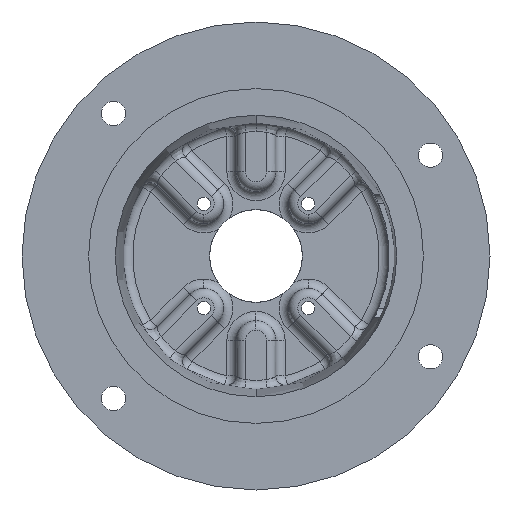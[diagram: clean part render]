
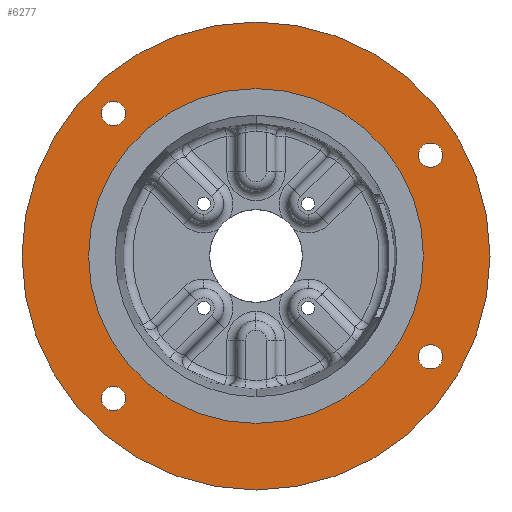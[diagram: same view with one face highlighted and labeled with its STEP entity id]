
A CAD part, front view. The second image highlights one B-rep face of the part: STEP entity #6277.
In plain terms, the highlighted planar face has unit normal (0, -1, 0).
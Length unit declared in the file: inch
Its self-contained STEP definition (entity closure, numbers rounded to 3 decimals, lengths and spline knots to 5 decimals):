
#77 = CIRCLE ( 'NONE', #4605, 4.5 ) ;
#103 = CARTESIAN_POINT ( 'NONE',  ( 3.35585, 0., -1.9375 ) ) ;
#230 = FACE_BOUND ( 'NONE', #4727, .T. ) ;
#273 = VERTEX_POINT ( 'NONE', #1847 ) ;
#408 = DIRECTION ( 'NONE',  ( 0., 0., -1. ) ) ;
#413 = DIRECTION ( 'NONE',  ( 0., -1., 0. ) ) ;
#441 = CARTESIAN_POINT ( 'NONE',  ( -2.74004, 0., 2.74004 ) ) ;
#488 = CARTESIAN_POINT ( 'NONE',  ( -2.74004, 0., 2.97441 ) ) ;
#516 = ORIENTED_EDGE ( 'NONE', *, *, #4369, .F. ) ;
#527 = CARTESIAN_POINT ( 'NONE',  ( 3.35585, 0., -2.17187 ) ) ;
#542 = CIRCLE ( 'NONE', #6297, 0.23437 ) ;
#728 = EDGE_CURVE ( 'NONE', #4819, #273, #77, .T. ) ;
#779 = ORIENTED_EDGE ( 'NONE', *, *, #1703, .F. ) ;
#861 = CARTESIAN_POINT ( 'NONE',  ( 0., 0., 0. ) ) ;
#879 = DIRECTION ( 'NONE',  ( 0., -1., 0. ) ) ;
#1015 = CIRCLE ( 'NONE', #5855, 0.23438 ) ;
#1125 = ORIENTED_EDGE ( 'NONE', *, *, #6270, .F. ) ;
#1303 = DIRECTION ( 'NONE',  ( 0., 0., -1. ) ) ;
#1311 = DIRECTION ( 'NONE',  ( 0., -1., 0. ) ) ;
#1313 = EDGE_LOOP ( 'NONE', ( #5554, #779 ) ) ;
#1322 = CARTESIAN_POINT ( 'NONE',  ( 0., 0., 0. ) ) ;
#1437 = ORIENTED_EDGE ( 'NONE', *, *, #4783, .F. ) ;
#1528 = CARTESIAN_POINT ( 'NONE',  ( -2.74004, 0., 2.50566 ) ) ;
#1612 = FACE_BOUND ( 'NONE', #1313, .T. ) ;
#1703 = EDGE_CURVE ( 'NONE', #5228, #5819, #542, .T. ) ;
#1760 = DIRECTION ( 'NONE',  ( 0., 0., -1. ) ) ;
#1791 = DIRECTION ( 'NONE',  ( 0., -1., 0. ) ) ;
#1799 = CARTESIAN_POINT ( 'NONE',  ( 0., 0., 3.2195 ) ) ;
#1835 = CARTESIAN_POINT ( 'NONE',  ( -2.74004, 0., 2.74004 ) ) ;
#1847 = CARTESIAN_POINT ( 'NONE',  ( 0., 0., -4.5 ) ) ;
#2000 = CARTESIAN_POINT ( 'NONE',  ( 0., 0., -3.2195 ) ) ;
#2060 = EDGE_CURVE ( 'NONE', #5192, #5173, #3580, .T. ) ;
#2099 = VERTEX_POINT ( 'NONE', #2000 ) ;
#2105 = DIRECTION ( 'NONE',  ( 0., 0., -1. ) ) ;
#2113 = DIRECTION ( 'NONE',  ( 0., -1., 0. ) ) ;
#2121 = CARTESIAN_POINT ( 'NONE',  ( 3.35585, 0., 1.9375 ) ) ;
#2137 = ORIENTED_EDGE ( 'NONE', *, *, #4495, .T. ) ;
#2178 = DIRECTION ( 'NONE',  ( 0., 0., -1. ) ) ;
#2221 = DIRECTION ( 'NONE',  ( 0., -1., 0. ) ) ;
#2226 = CARTESIAN_POINT ( 'NONE',  ( -2.74004, 0., -2.74004 ) ) ;
#2259 = CIRCLE ( 'NONE', #5369, 4.5 ) ;
#2329 = EDGE_LOOP ( 'NONE', ( #2399, #1437 ) ) ;
#2399 = ORIENTED_EDGE ( 'NONE', *, *, #3465, .F. ) ;
#2512 = CIRCLE ( 'NONE', #4157, 0.23438 ) ;
#2668 = AXIS2_PLACEMENT_3D ( 'NONE', #441, #413, #408 ) ;
#2680 = CIRCLE ( 'NONE', #3091, 3.2195 ) ;
#2771 = CIRCLE ( 'NONE', #3753, 0.23438 ) ;
#2796 = DIRECTION ( 'NONE',  ( 0., 0., -1. ) ) ;
#2823 = DIRECTION ( 'NONE',  ( 0., -1., 0. ) ) ;
#2837 = CARTESIAN_POINT ( 'NONE',  ( -2.74004, 0., -2.50566 ) ) ;
#2845 = CARTESIAN_POINT ( 'NONE',  ( 3.35585, 0., 1.9375 ) ) ;
#2971 = DIRECTION ( 'NONE',  ( 0., -1., 0. ) ) ;
#2975 = VERTEX_POINT ( 'NONE', #3026 ) ;
#2982 = DIRECTION ( 'NONE',  ( 0., 0., -1. ) ) ;
#2996 = FACE_BOUND ( 'NONE', #2329, .T. ) ;
#3026 = CARTESIAN_POINT ( 'NONE',  ( 3.35585, 0., -1.70312 ) ) ;
#3091 = AXIS2_PLACEMENT_3D ( 'NONE', #1322, #1311, #1303 ) ;
#3120 = ORIENTED_EDGE ( 'NONE', *, *, #5109, .F. ) ;
#3139 = CARTESIAN_POINT ( 'NONE',  ( 0., 0., 0. ) ) ;
#3180 = EDGE_CURVE ( 'NONE', #5253, #2099, #2680, .T. ) ;
#3320 = VERTEX_POINT ( 'NONE', #527 ) ;
#3394 = DIRECTION ( 'NONE',  ( 0., 0., -1. ) ) ;
#3465 = EDGE_CURVE ( 'NONE', #3320, #2975, #4625, .T. ) ;
#3570 = ORIENTED_EDGE ( 'NONE', *, *, #2060, .F. ) ;
#3580 = CIRCLE ( 'NONE', #5651, 0.23438 ) ;
#3753 = AXIS2_PLACEMENT_3D ( 'NONE', #2845, #2823, #2796 ) ;
#3813 = CARTESIAN_POINT ( 'NONE',  ( 0., 0., 4.5 ) ) ;
#3833 = DIRECTION ( 'NONE',  ( 0., 0., 1. ) ) ;
#3850 = VERTEX_POINT ( 'NONE', #1528 ) ;
#3919 = EDGE_LOOP ( 'NONE', ( #2137, #5475 ) ) ;
#4068 = DIRECTION ( 'NONE',  ( 0., -1., 0. ) ) ;
#4097 = DIRECTION ( 'NONE',  ( 0., 0., -1. ) ) ;
#4157 = AXIS2_PLACEMENT_3D ( 'NONE', #5252, #4068, #3394 ) ;
#4193 = DIRECTION ( 'NONE',  ( 0., 1., 0. ) ) ;
#4221 = FACE_OUTER_BOUND ( 'NONE', #3919, .T. ) ;
#4291 = DIRECTION ( 'NONE',  ( 0., 0., -1. ) ) ;
#4293 = DIRECTION ( 'NONE',  ( 0., -1., 0. ) ) ;
#4298 = CARTESIAN_POINT ( 'NONE',  ( -2.74004, 0., -2.74004 ) ) ;
#4344 = CARTESIAN_POINT ( 'NONE',  ( -2.74004, 0., -2.97441 ) ) ;
#4369 = EDGE_CURVE ( 'NONE', #5173, #5192, #2771, .T. ) ;
#4395 = CIRCLE ( 'NONE', #5061, 3.2195 ) ;
#4412 = EDGE_CURVE ( 'NONE', #5819, #5228, #6361, .T. ) ;
#4421 = AXIS2_PLACEMENT_3D ( 'NONE', #2226, #2221, #2178 ) ;
#4463 = CARTESIAN_POINT ( 'NONE',  ( 0., 0., 0. ) ) ;
#4495 = EDGE_CURVE ( 'NONE', #273, #4819, #2259, .T. ) ;
#4515 = EDGE_LOOP ( 'NONE', ( #1125, #4888 ) ) ;
#4605 = AXIS2_PLACEMENT_3D ( 'NONE', #861, #2971, #2982 ) ;
#4625 = CIRCLE ( 'NONE', #5943, 0.23438 ) ;
#4632 = PLANE ( 'NONE',  #5891 ) ;
#4646 = DIRECTION ( 'NONE',  ( 0., 0., -1. ) ) ;
#4727 = EDGE_LOOP ( 'NONE', ( #5886, #3120 ) ) ;
#4768 = DIRECTION ( 'NONE',  ( 0., -1., 0. ) ) ;
#4783 = EDGE_CURVE ( 'NONE', #2975, #3320, #2512, .T. ) ;
#4819 = VERTEX_POINT ( 'NONE', #3813 ) ;
#4888 = ORIENTED_EDGE ( 'NONE', *, *, #3180, .F. ) ;
#4903 = EDGE_LOOP ( 'NONE', ( #3570, #516 ) ) ;
#5061 = AXIS2_PLACEMENT_3D ( 'NONE', #3139, #4768, #4646 ) ;
#5109 = EDGE_CURVE ( 'NONE', #6225, #3850, #1015, .T. ) ;
#5173 = VERTEX_POINT ( 'NONE', #6056 ) ;
#5192 = VERTEX_POINT ( 'NONE', #5718 ) ;
#5228 = VERTEX_POINT ( 'NONE', #2837 ) ;
#5252 = CARTESIAN_POINT ( 'NONE',  ( 3.35585, 0., -1.9375 ) ) ;
#5253 = VERTEX_POINT ( 'NONE', #1799 ) ;
#5369 = AXIS2_PLACEMENT_3D ( 'NONE', #4463, #5472, #4097 ) ;
#5472 = DIRECTION ( 'NONE',  ( 0., -1., 0. ) ) ;
#5475 = ORIENTED_EDGE ( 'NONE', *, *, #728, .T. ) ;
#5486 = FACE_BOUND ( 'NONE', #4515, .T. ) ;
#5554 = ORIENTED_EDGE ( 'NONE', *, *, #4412, .F. ) ;
#5608 = FACE_BOUND ( 'NONE', #4903, .T. ) ;
#5651 = AXIS2_PLACEMENT_3D ( 'NONE', #2121, #2113, #2105 ) ;
#5718 = CARTESIAN_POINT ( 'NONE',  ( 3.35585, 0., 1.70313 ) ) ;
#5819 = VERTEX_POINT ( 'NONE', #4344 ) ;
#5855 = AXIS2_PLACEMENT_3D ( 'NONE', #1835, #1791, #1760 ) ;
#5886 = ORIENTED_EDGE ( 'NONE', *, *, #6171, .F. ) ;
#5891 = AXIS2_PLACEMENT_3D ( 'NONE', #5989, #4193, #3833 ) ;
#5943 = AXIS2_PLACEMENT_3D ( 'NONE', #103, #879, #6347 ) ;
#5961 = CIRCLE ( 'NONE', #2668, 0.23438 ) ;
#5989 = CARTESIAN_POINT ( 'NONE',  ( -4.5, 0., 0. ) ) ;
#6056 = CARTESIAN_POINT ( 'NONE',  ( 3.35585, 0., 2.17188 ) ) ;
#6171 = EDGE_CURVE ( 'NONE', #3850, #6225, #5961, .T. ) ;
#6225 = VERTEX_POINT ( 'NONE', #488 ) ;
#6270 = EDGE_CURVE ( 'NONE', #2099, #5253, #4395, .T. ) ;
#6277 = ADVANCED_FACE ( 'NONE', ( #5608, #2996, #1612, #230, #5486, #4221 ), #4632, .F. ) ;
#6297 = AXIS2_PLACEMENT_3D ( 'NONE', #4298, #4293, #4291 ) ;
#6347 = DIRECTION ( 'NONE',  ( 0., 0., -1. ) ) ;
#6361 = CIRCLE ( 'NONE', #4421, 0.23437 ) ;
